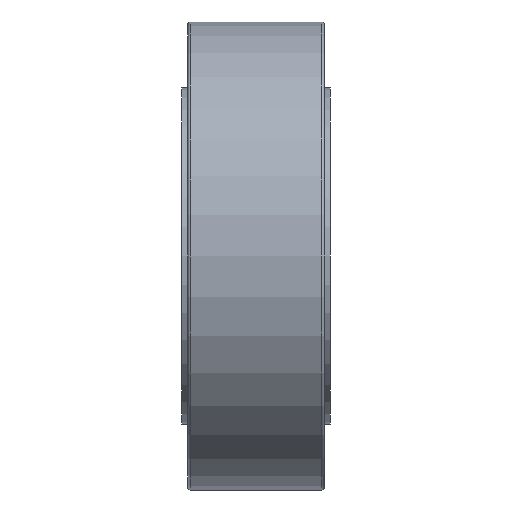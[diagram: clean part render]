
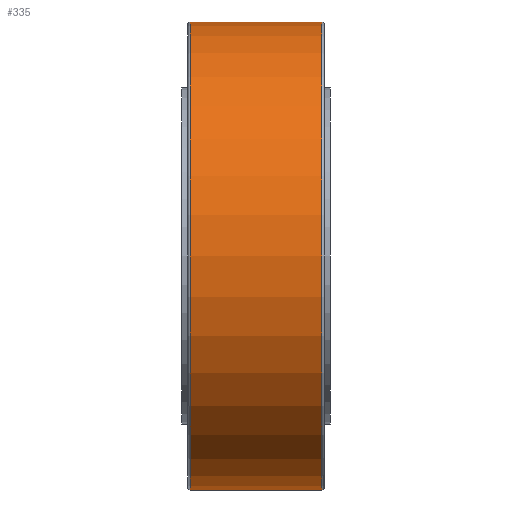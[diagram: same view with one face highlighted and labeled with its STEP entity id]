
A CAD part, front view. The second image highlights one B-rep face of the part: STEP entity #335.
In plain terms, the highlighted cylindrical face has radius 110 mm (diameter 220 mm), a partial arc.
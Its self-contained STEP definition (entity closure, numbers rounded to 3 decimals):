
#224 = ORIENTED_EDGE ( 'NONE', *, *, #275, .F. ) ;
#275 = EDGE_CURVE ( 'NONE', #3340, #3361, #1471, .T. ) ;
#279 = EDGE_CURVE ( 'NONE', #3346, #3363, #1458, .T. ) ;
#289 = EDGE_LOOP ( 'NONE', ( #224, #380, #321, #323 ) ) ;
#316 = EDGE_CURVE ( 'NONE', #3340, #3346, #1523, .T. ) ;
#318 = EDGE_CURVE ( 'NONE', #3363, #3361, #1524, .T. ) ;
#321 = ORIENTED_EDGE ( 'NONE', *, *, #279, .T. ) ;
#323 = ORIENTED_EDGE ( 'NONE', *, *, #318, .T. ) ;
#335 = ADVANCED_FACE ( 'NONE', ( #1516 ), #1565, .T. ) ;
#380 = ORIENTED_EDGE ( 'NONE', *, *, #316, .T. ) ;
#1455 = DIRECTION ( 'NONE',  ( -1., 0., 0. ) ) ;
#1456 = VECTOR ( 'NONE', #1455, 1000. ) ;
#1457 = CARTESIAN_POINT ( 'NONE',  ( -41.122, 0., 110. ) ) ;
#1458 = LINE ( 'NONE', #1457, #1456 ) ;
#1468 = DIRECTION ( 'NONE',  ( -1., 0., 0. ) ) ;
#1469 = VECTOR ( 'NONE', #1468, 1000. ) ;
#1470 = CARTESIAN_POINT ( 'NONE',  ( -41.122, 0., -110. ) ) ;
#1471 = LINE ( 'NONE', #1470, #1469 ) ;
#1514 = DIRECTION ( 'NONE',  ( 0., 0., -1. ) ) ;
#1515 = DIRECTION ( 'NONE',  ( 1., 0., 0. ) ) ;
#1516 = FACE_OUTER_BOUND ( 'NONE', #289, .T. ) ;
#1518 = AXIS2_PLACEMENT_3D ( 'NONE', #1553, #1558, #1552 ) ;
#1519 = DIRECTION ( 'NONE',  ( 0., 0., 1. ) ) ;
#1520 = DIRECTION ( 'NONE',  ( -1., 0., 0. ) ) ;
#1521 = CARTESIAN_POINT ( 'NONE',  ( 31., 0., 0. ) ) ;
#1522 = AXIS2_PLACEMENT_3D ( 'NONE', #1521, #1520, #1519 ) ;
#1523 = CIRCLE ( 'NONE', #1522, 110. ) ;
#1524 = CIRCLE ( 'NONE', #1533, 110. ) ;
#1529 = CARTESIAN_POINT ( 'NONE',  ( -31., 0., 0. ) ) ;
#1533 = AXIS2_PLACEMENT_3D ( 'NONE', #1529, #1515, #1514 ) ;
#1552 = DIRECTION ( 'NONE',  ( 0., 0., 1. ) ) ;
#1553 = CARTESIAN_POINT ( 'NONE',  ( -41.122, 0., 0. ) ) ;
#1558 = DIRECTION ( 'NONE',  ( -1., 0., 0. ) ) ;
#1565 = CYLINDRICAL_SURFACE ( 'NONE', #1518, 110. ) ;
#2654 = CARTESIAN_POINT ( 'NONE',  ( 31., 0., 110. ) ) ;
#2669 = CARTESIAN_POINT ( 'NONE',  ( 31., 0., -110. ) ) ;
#2674 = CARTESIAN_POINT ( 'NONE',  ( -31., 0., 110. ) ) ;
#2680 = CARTESIAN_POINT ( 'NONE',  ( -31., 0., -110. ) ) ;
#3340 = VERTEX_POINT ( 'NONE', #2669 ) ;
#3346 = VERTEX_POINT ( 'NONE', #2654 ) ;
#3361 = VERTEX_POINT ( 'NONE', #2680 ) ;
#3363 = VERTEX_POINT ( 'NONE', #2674 ) ;
